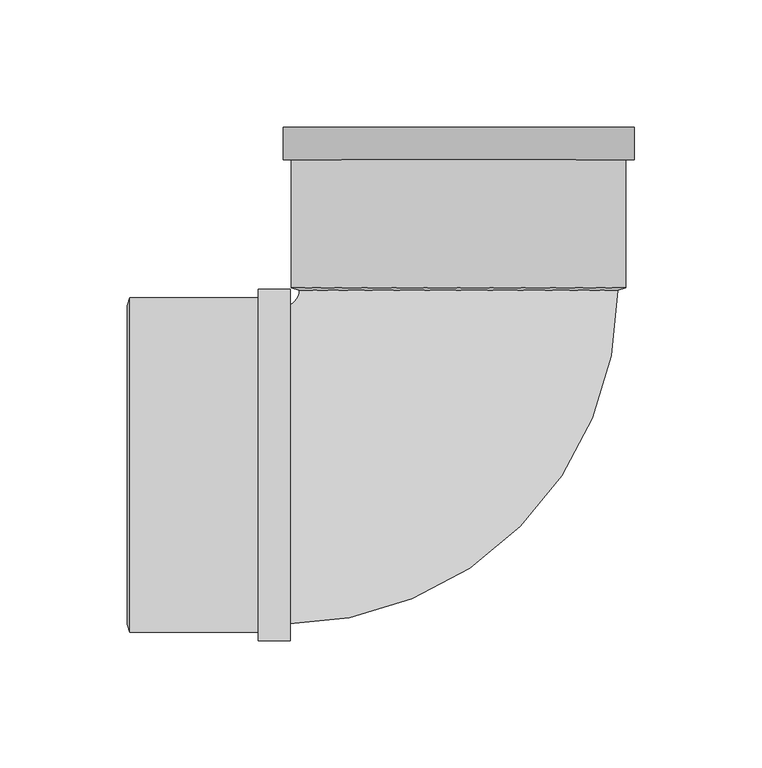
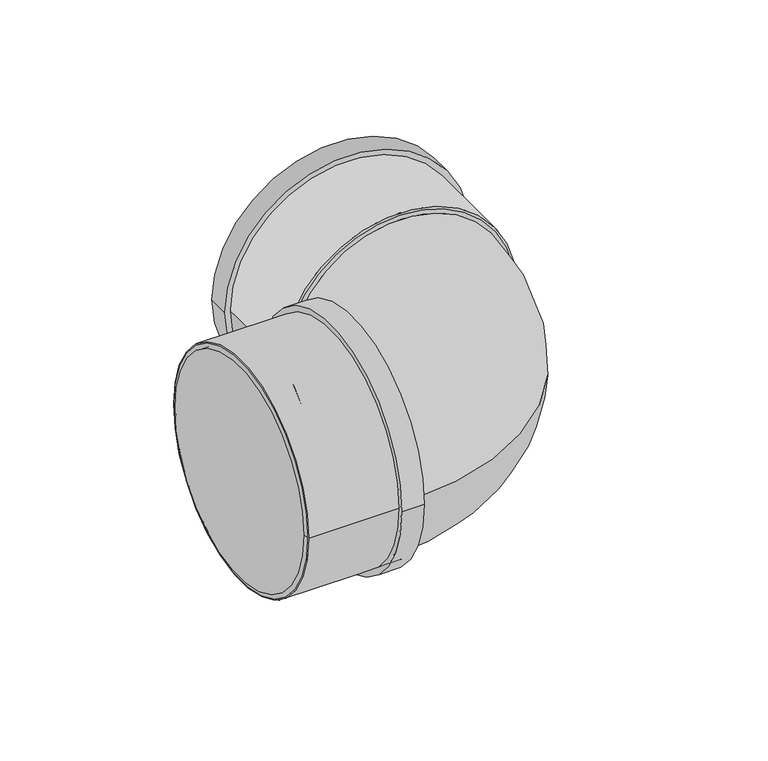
"""IFC4 building model written with IfcOpenShell, lengths in millimetres: pipe fitting geometry, Superdrain HT Bend Composite 2x45 : Superdrain HT Bend Composite 2x45."""

from ifc_helpers import new_model, si_unit, point, frame, origin, origin_2d, place, context, project, spatial, polyline, circle_curve, ellipse_curve, trimmed, segment, composite_curve, outline, extrude, source, transform, mapped, element, save
from ifc_brep_helpers import plane_surface, revolved_surface, advanced_brep


def pipe_fitting_1cb4de3e(model_context):
    return source(origin(), model_context, "Body", "SolidModel", [
        extrude(outline(composite_curve([segment(trimmed(circle_curve(origin_2d(), 65.625), [point((65.625, 0.0))], [point((-65.625, 0.0))], False, "CARTESIAN"), True, "CONTINUOUS"), segment(trimmed(circle_curve(origin_2d(), 65.625), [point((-65.625, 0.0))], [point((65.625, 0.0))], False, "CARTESIAN"), True, "CONTINUOUS")], self_intersect=False), holes=[composite_curve([segment(trimmed(circle_curve(origin_2d(), 62.5), [point((62.5, 0.0))], [point((-62.5, 0.0))], True, "CARTESIAN"), True, "CONTINUOUS"), segment(trimmed(circle_curve(origin_2d(), 62.5), [point((-62.5, 0.0))], [point((62.5, 0.0))], True, "CARTESIAN"), True, "CONTINUOUS")], self_intersect=False)]), frame((-129.0, 0.0, 0.0), z_axis=(1.0, 0.0, 0.0), x_axis=(0.0, 1.0, 0.0)), (0.0, 0.0, 1.0), 63.0),
        extrude(outline(composite_curve([segment(trimmed(circle_curve(origin_2d(), 68.90625), [point((68.90625, 0.0))], [point((-68.90625, 0.0))], False, "CARTESIAN"), True, "CONTINUOUS"), segment(trimmed(circle_curve(origin_2d(), 68.90625), [point((-68.90625, 0.0))], [point((68.90625, 0.0))], False, "CARTESIAN"), True, "CONTINUOUS")], self_intersect=False), holes=[composite_curve([segment(trimmed(circle_curve(origin_2d(), 62.5), [point((62.5, 0.0))], [point((-62.5, 0.0))], True, "CARTESIAN"), True, "CONTINUOUS"), segment(trimmed(circle_curve(origin_2d(), 62.5), [point((-62.5, 0.0))], [point((62.5, 0.0))], True, "CARTESIAN"), True, "CONTINUOUS")], self_intersect=False)]), frame((-78.6, 0.0, 0.0), z_axis=(1.0, 0.0, 0.0), x_axis=(0.0, 1.0, 0.0)), (0.0, 0.0, 1.0), 12.6),
        advanced_brep(
        [(-130.0, 62.5, 0.0), (-130.0, -62.5, 0.0), (-129.0, 65.625, 0.0), (-129.0, -65.625, 0.0)],
        [
            (0, 1, circle_curve(frame((-130.0, 0.0, 0.0), z_axis=(-1.0, 0.0, 0.0), x_axis=(0.0, 1.0000000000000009, 0.0)), 62.5)),
            (1, 0, circle_curve(frame((-130.0, 0.0, 0.0), z_axis=(-1.0, 0.0, 0.0), x_axis=(0.0, -1.0000000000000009, 0.0)), 62.5)),
            (2, 3, circle_curve(frame((-129.0, 0.0, 0.0), z_axis=(1.0, 0.0, 0.0), x_axis=(0.0, -1.0000000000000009, 0.0)), 65.625)),
            (3, 2, circle_curve(frame((-129.0, 0.0, 0.0), z_axis=(1.0, 0.0, 0.0), x_axis=(0.0, 1.0000000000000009, 0.0)), 65.625)),
            (3, 1),
            (0, 2),
        ],
        [
            plane_surface(frame((-130.0, 0.0, 0.0), z_axis=(-1.0, 0.0, 0.0), x_axis=(0.0, 0.0, -1.0))),
            plane_surface(frame((-129.0, 0.0, 0.0), z_axis=(1.0, 0.0, 0.0), x_axis=(0.0, 0.0, -1.0))),
            revolved_surface(polyline([(-130.0, 62.499999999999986, 0.0), (-129.0, 65.625, 0.0)]), (-150.0, 0.0, 0.0), (1.0000000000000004, 0.0, 0.0)),
            revolved_surface(polyline([(-130.0, -62.499999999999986, 0.0), (-129.0, -65.625, 0.0)]), (-150.0, 0.0, 0.0), (1.0000000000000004, 0.0, 0.0)),
        ],
        [
            (0, [[1, 2]]),
            (1, [[3, 4]]),
            (2, [[-4, 5, -1, 6]]),
            (3, [[-3, -6, -2, -5]]),
        ],
    ),
        advanced_brep(
        [(62.5, 68.5, 0.0), (-62.5, 68.5, 0.0), (-68.5, -62.5, 0.0), (-68.5, 62.5, 0.0)],
        [
            (0, 1, circle_curve(frame((0.0, 68.5, 0.0), z_axis=(0.0, 1.0, 0.0), x_axis=(-1.0, 0.0, 0.0)), 62.5)),
            (1, 0, circle_curve(frame((0.0, 68.5, 0.0), z_axis=(0.0, 1.0, 0.0), x_axis=(-1.0, 0.0, 0.0)), 62.5)),
            (2, 3, circle_curve(frame((-68.5, 0.0, 0.0), z_axis=(-1.0, 0.0, 0.0), x_axis=(0.0, 1.0, 0.0)), 62.5)),
            (3, 2, circle_curve(frame((-68.5, 0.0, 0.0), z_axis=(-1.0, 0.0, 0.0), x_axis=(0.0, 1.0, 0.0)), 62.5)),
            (3, 1, circle_curve(frame((-68.5, 68.5, 0.0), z_axis=(0.0, 0.0, 1.0), x_axis=(1.0, 0.0, 0.0)), 6.0)),
            (0, 2, circle_curve(frame((-68.5, 68.5, 0.0), z_axis=(0.0, 0.0, -1.0), x_axis=(1.0, 0.0, 0.0)), 131.0)),
        ],
        [
            plane_surface(frame((0.0, 68.5, 0.0), z_axis=(0.0, 1.0, 0.0), x_axis=(0.0, 0.0, -1.0))),
            plane_surface(frame((-68.5, 0.0, 0.0), z_axis=(-1.0, 0.0, 0.0), x_axis=(0.0, 0.0, -1.0))),
            revolved_surface(trimmed(ellipse_curve(frame((0.0, 68.5, 0.0), z_axis=(0.0, -1.0, 0.0), x_axis=(-1.0, 0.0, 0.0)), 62.5, 62.5), [point((-62.5, 68.5, 0.0))], [point((62.5, 68.5, 0.0))], True, "CARTESIAN"), (-68.5, 68.5, 0.0), (0.0, 0.0, 1.0)),
            revolved_surface(trimmed(ellipse_curve(frame((0.0, 68.5, 0.0), z_axis=(0.0, -1.0, 0.0), x_axis=(-1.0, 0.0, 0.0)), 62.5, 62.5), [point((62.5, 68.5, 0.0))], [point((-62.5, 68.5, 0.0))], True, "CARTESIAN"), (-68.5, 68.5, 0.0), (0.0, 0.0, 1.0)),
        ],
        [
            (0, [[1, 2]]),
            (1, [[3, 4]]),
            (2, [[-4, 5, -1, 6]]),
            (3, [[-3, -6, -2, -5]]),
        ],
    ),
        extrude(outline(composite_curve([segment(trimmed(circle_curve(origin_2d(), 65.625), [point((0.0, 65.625))], [point((0.0, -65.625))], False, "CARTESIAN"), True, "CONTINUOUS"), segment(trimmed(circle_curve(origin_2d(), 65.625), [point((0.0, -65.625))], [point((0.0, 65.625))], False, "CARTESIAN"), True, "CONTINUOUS")], self_intersect=False), holes=[composite_curve([segment(trimmed(circle_curve(origin_2d(), 62.5), [point((0.0, 62.5))], [point((0.0, -62.5))], True, "CARTESIAN"), True, "CONTINUOUS"), segment(trimmed(circle_curve(origin_2d(), 62.5), [point((0.0, -62.5))], [point((0.0, 62.5))], True, "CARTESIAN"), True, "CONTINUOUS")], self_intersect=False)]), frame((0.0, 69.5, 0.0), z_axis=(0.0, 1.0, 0.0), x_axis=(0.0, 0.0, 1.0)), (0.0, 0.0, 1.0), 63.0),
        extrude(outline(composite_curve([segment(trimmed(circle_curve(origin_2d(), 68.90625), [point((0.0, -68.90625))], [point((0.0, 68.90625))], False, "CARTESIAN"), True, "CONTINUOUS"), segment(trimmed(circle_curve(origin_2d(), 68.90625), [point((0.0, 68.90625))], [point((0.0, -68.90625))], False, "CARTESIAN"), True, "CONTINUOUS")], self_intersect=False), holes=[composite_curve([segment(trimmed(circle_curve(origin_2d(), 62.5), [point((0.0, -62.5))], [point((0.0, 62.5))], True, "CARTESIAN"), True, "CONTINUOUS"), segment(trimmed(circle_curve(origin_2d(), 62.5), [point((0.0, 62.5))], [point((0.0, -62.5))], True, "CARTESIAN"), True, "CONTINUOUS")], self_intersect=False)]), frame((0.0, 119.9, 0.0), z_axis=(0.0, 1.0, 0.0), x_axis=(0.0, 0.0, 1.0)), (0.0, 0.0, 1.0), 12.6),
        advanced_brep(
        [(65.625, 69.5, 0.0), (-65.625, 69.5, 0.0), (62.5, 68.5, 0.0), (-62.5, 68.5, 0.0)],
        [
            (0, 1, circle_curve(frame((0.0, 69.5, 0.0), z_axis=(0.0, 1.0, 0.0), x_axis=(1.0, 0.0, 0.0)), 65.625)),
            (1, 0, circle_curve(frame((0.0, 69.5, 0.0), z_axis=(0.0, 1.0, 0.0), x_axis=(-1.0, 0.0, 0.0)), 65.625)),
            (2, 3, circle_curve(frame((0.0, 68.5, 0.0), z_axis=(0.0, -1.0, 0.0), x_axis=(-1.0, 0.0, 0.0)), 62.5)),
            (3, 2, circle_curve(frame((0.0, 68.5, 0.0), z_axis=(0.0, -1.0, 0.0), x_axis=(1.0, 0.0, 0.0)), 62.5)),
            (3, 1),
            (0, 2),
        ],
        [
            plane_surface(frame((0.0, 69.5, 0.0), z_axis=(0.0, 1.0, 0.0), x_axis=(0.0, 0.0, -1.0))),
            plane_surface(frame((0.0, 68.5, 0.0), z_axis=(0.0, -1.0, 0.0), x_axis=(0.0, 0.0, -1.0))),
            revolved_surface(polyline([(-62.5, 68.5, 0.0), (-65.625, 69.5, 0.0)]), (0.0, 48.5, 0.0), (0.0, 1.0, 0.0)),
            revolved_surface(polyline([(62.5, 68.5, 0.0), (65.625, 69.5, 0.0)]), (0.0, 48.5, 0.0), (0.0, 1.0, 0.0)),
        ],
        [
            (0, [[1, 2]]),
            (1, [[3, 4]]),
            (2, [[-4, 5, -1, 6]]),
            (3, [[-3, -6, -2, -5]]),
        ],
    ),
        extrude(outline(composite_curve([segment(trimmed(circle_curve(origin_2d(), 62.5), [point((-62.5, 0.0))], [point((62.5, 0.0))], False, "CARTESIAN"), True, "CONTINUOUS"), segment(trimmed(circle_curve(origin_2d(), 62.5), [point((62.5, 0.0))], [point((-62.5, 0.0))], False, "CARTESIAN"), True, "CONTINUOUS")], self_intersect=False)), frame((-129.0, 0.0, 0.0), z_axis=(1.0, 0.0, 0.0), x_axis=(0.0, 1.0, 0.0)), (0.0, 0.0, 1.0), 60.5),
    ])


if __name__ == "__main__":
    model = new_model("IFC4")
    model_context = context("Model", 3, world=origin())
    ifc_project = project(units=[si_unit("LENGTHUNIT", "METRE", prefix="MILLI")], contexts=[model_context])
    site = spatial("IfcSite", under=ifc_project)
    building = spatial("IfcBuilding", under=site)
    placement = place(None, origin())
    pipe_fitting_shape = pipe_fitting_1cb4de3e(model_context)
    element("IfcPipeFitting", 1, ObjectType="Superdrain HT Bend Composite 2x45 : Superdrain HT Bend Composite 2x45", at=placement, inside=building, context=model_context, shape_type="MappedRepresentation", body=[
        mapped(pipe_fitting_shape, transform((0.0, 0.0, 0.0), x_axis=(1.0, 0.0, 0.0), y_axis=(0.0, 1.0, 0.0), z_axis=(0.0, 0.0, 1.0))),
    ])
    save(model, "model.ifc")
